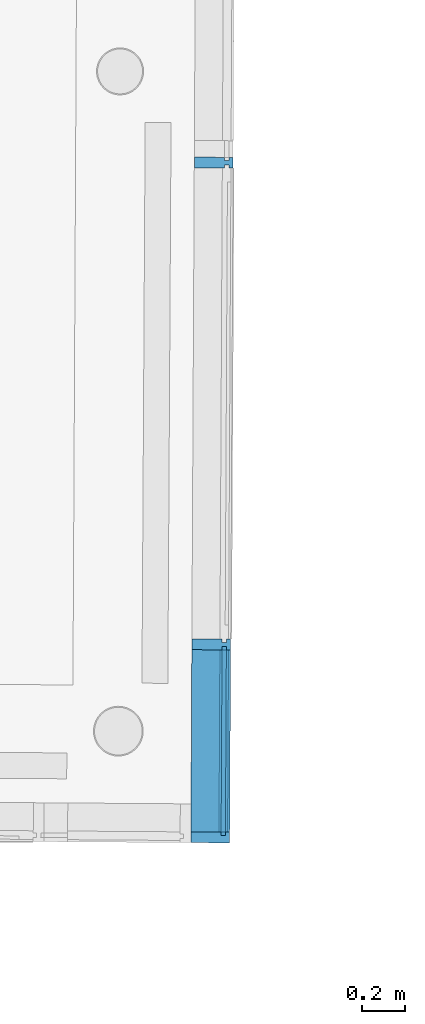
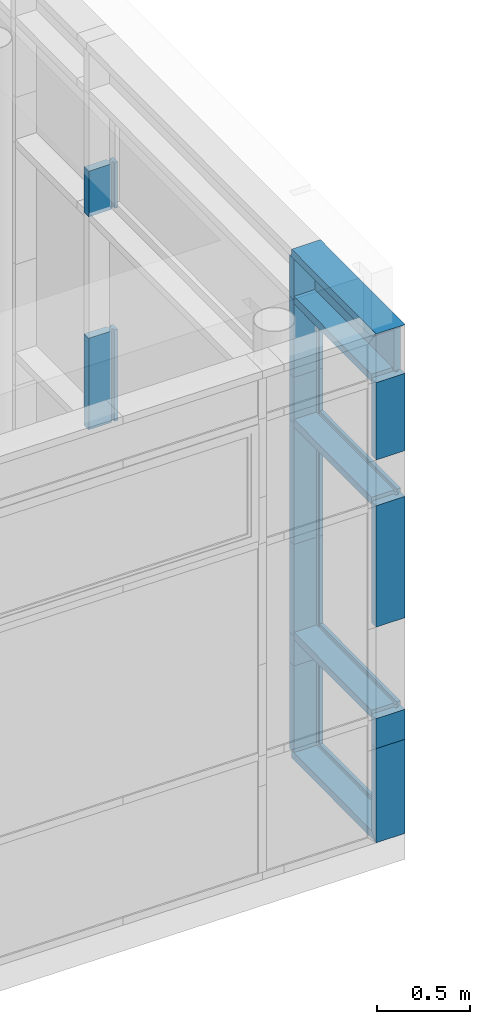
# One storey, part 178 of 196: 19 building element parts, 1 element without a shape of its own.
"""IFC2X3 building model written with IfcOpenShell, lengths in metres."""

from ifc_helpers import new_model, entity, si_unit, converted_unit, derived_unit, money_unit, direction, frame, origin_with_axes, place, context, subcontext, project, spatial, faceted_brep, material, type_object, element, aggregate, save


model = new_model("IFC2X3")

# Units and contexts
model_context = context("Model", 3, precision=1e-05, world=origin_with_axes(), true_north=direction((0.0, 1.0)))
body_context = subcontext(model_context, "Body", "Model", "MODEL_VIEW")
ifc_project = project(units=[si_unit("LENGTHUNIT", "METRE"), si_unit("AREAUNIT", "SQUARE_METRE"), si_unit("VOLUMEUNIT", "CUBIC_METRE"), converted_unit("PLANEANGLEUNIT", "DEGREE", entity("IfcPlaneAngleMeasure", 0.0174532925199), si_unit("PLANEANGLEUNIT", "RADIAN"), dimensions=[0, 0, 0, 0, 0, 0, 0]), money_unit("EUR"), converted_unit("TIMEUNIT", "Year", entity("IfcTimeMeasure", 31556926.0), si_unit("TIMEUNIT", "SECOND"), dimensions=[0, 0, 1, 0, 0, 0, 0]), si_unit("MASSUNIT", "GRAM", prefix="KILO"), si_unit("THERMODYNAMICTEMPERATUREUNIT", "DEGREE_CELSIUS"), si_unit("LUMINOUSINTENSITYUNIT", "LUMEN"), si_unit("ENERGYUNIT", "JOULE", prefix="MEGA"), derived_unit("THERMALCONDUCTANCEUNIT", [(si_unit("POWERUNIT", "WATT"), 1), (si_unit("LENGTHUNIT", "METRE"), -1), (si_unit("THERMODYNAMICTEMPERATUREUNIT", "KELVIN"), -1)]), derived_unit("SPECIFICHEATCAPACITYUNIT", [(si_unit("ENERGYUNIT", "JOULE"), 1), (si_unit("MASSUNIT", "GRAM", prefix="KILO"), -1), (si_unit("THERMODYNAMICTEMPERATUREUNIT", "KELVIN"), -1)]), derived_unit("MASSDENSITYUNIT", [(si_unit("MASSUNIT", "GRAM", prefix="KILO"), 1), (si_unit("VOLUMEUNIT", "CUBIC_METRE"), -1)])], contexts=[model_context])

# Site, building, storey
site_placement = place(None, origin_with_axes())
site = spatial("IfcSite", under=ifc_project, at=site_placement, Name="Gelände", CompositionType="ELEMENT")
building_placement = place(site_placement, origin_with_axes())
building = spatial("IfcBuilding", under=site, at=building_placement, Name="Gebäude", CompositionType="ELEMENT")
storey_placement = place(building_placement, frame((0.0, 0.0, -3.0), z_axis=(0.0, 0.0, 1.0), x_axis=(1.0, 0.0, 0.0)))
storey = spatial("IfcBuildingStorey", under=building, at=storey_placement, Name="KELLERGESCHOSS", CompositionType="ELEMENT", Elevation=-3.0)

# Proxy, building element parts
building_element_proxy_type = type_object("IfcBuildingElementProxyType", Name="Fassadentyp", PredefinedType="NOTDEFINED")
proxy_placement = place(storey_placement, frame((9.16160365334, 37.7476945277, 0.610000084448), z_axis=(0.0, 0.0, 1.0), x_axis=(1.0, 0.0, 0.0)))
proxy = element("IfcBuildingElementProxy", 1, at=proxy_placement, inside=storey, type_object=building_element_proxy_type, Name="Fassade-002")
ifc_material_1 = material(Name="45_Glas, Normalglas")
building_element_part_1_placement = place(proxy_placement, origin_with_axes())
building_element_part_1 = element("IfcBuildingElementPart", 2, at=building_element_part_1_placement, material=ifc_material_1, Name="45_Glas, Normalglas", context=body_context, shape_type="Brep", body=[
    faceted_brep([(-0.0257091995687, -1.12620736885, 3.31499994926), (-0.030140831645, -2.00043873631, 3.31499994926), (0.00985865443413, -2.00064150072, 3.31499994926), (0.0142902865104, -1.12641013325, 3.31499994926), (-0.0257091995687, -1.12620736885, 3.0394964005), (-0.030140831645, -2.00043873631, 3.0394964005), (0.00985865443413, -2.00064150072, 3.0394964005), (0.0142902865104, -1.12641013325, 3.0394964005)], [[[0, 1, 2, 3]], [[0, 4, 5, 1]], [[1, 5, 6, 2]], [[3, 2, 6, 7]], [[4, 0, 3, 7]], [[5, 4, 7, 6]]]),
])
ifc_material_2 = material(Name="53_Metall, Aluminium")
building_element_part_2_placement = place(proxy_placement, origin_with_axes())
building_element_part_2 = element("IfcBuildingElementPart", 3, at=building_element_part_2_placement, material=ifc_material_2, Name="53_Metall, Aluminium", context=body_context, shape_type="Brep", body=[
    faceted_brep([(-0.0156079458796, -1.10625832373, 2.51999991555), (-0.0155319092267, -1.09125851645, 2.51999991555), (-0.155530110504, -1.09054884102, 2.51999991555), (-0.155783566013, -1.14054819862, 2.51999991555), (-0.0157853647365, -1.14125787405, 2.51999991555), (-0.0157093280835, -1.12625806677, 2.51999991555), (0.00429041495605, -1.12635944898, 2.51999991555), (0.00421437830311, -1.14135925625, 2.51999991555), (0.0242141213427, -1.14146063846, 2.51999991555), (0.0244675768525, -1.09146128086, 2.51999991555), (0.00446783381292, -1.09135989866, 2.51999991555), (0.00439179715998, -1.10635970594, 2.51999991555), (-0.0156079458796, -1.10625832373, 2.21916309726), (-0.0155319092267, -1.09125851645, 2.21916309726), (-0.155530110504, -1.09054884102, 2.21916309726), (-0.155783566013, -1.14054819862, 2.21916309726), (-0.0157853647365, -1.14125787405, 2.21916309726), (-0.0157093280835, -1.12625806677, 2.21916309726), (0.00429041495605, -1.12635944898, 2.21916309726), (0.00421437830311, -1.14135925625, 2.21916309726), (0.0242141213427, -1.14146063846, 2.21916309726), (0.0244675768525, -1.09146128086, 2.21916309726), (0.00446783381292, -1.09135989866, 2.21916309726), (0.00439179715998, -1.10635970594, 2.21916309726)], [[[0, 1, 2, 3, 4, 5, 6, 7, 8, 9, 10, 11]], [[1, 0, 12, 13]], [[1, 13, 14, 2]], [[3, 2, 14, 15]], [[4, 3, 15, 16]], [[4, 16, 17, 5]], [[5, 17, 18, 6]], [[7, 6, 18, 19]], [[19, 20, 8, 7]], [[9, 8, 20, 21]], [[22, 10, 9, 21]], [[11, 10, 22, 23]], [[0, 11, 23, 12]], [[23, 22, 21, 20, 19, 18, 17, 16, 15, 14, 13, 12]]]),
])
building_element_part_3_placement = place(proxy_placement, origin_with_axes())
building_element_part_3 = element("IfcBuildingElementPart", 4, at=building_element_part_3_placement, material=ifc_material_2, Name="53_Metall, Aluminium", context=body_context, shape_type="Brep", body=[
    faceted_brep([(-0.00429041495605, 1.12635944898, 2.51999991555), (-0.00421437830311, 1.14135925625, 2.51999991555), (-0.14421257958, 1.14206893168, 2.51999991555), (-0.14446603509, 1.09206957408, 2.51999991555), (-0.00446783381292, 1.09135989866, 2.51999991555), (-0.00439179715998, 1.10635970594, 2.51999991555), (0.0156079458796, 1.10625832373, 2.51999991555), (0.0155319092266, 1.09125851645, 2.51999991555), (0.0355316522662, 1.09115713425, 2.51999991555), (0.035785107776, 1.14115649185, 2.51999991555), (0.0157853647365, 1.14125787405, 2.51999991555), (0.0157093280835, 1.12625806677, 2.51999991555), (-0.00429041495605, 1.12635944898, 2.21916309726), (-0.00421437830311, 1.14135925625, 2.21916309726), (-0.14421257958, 1.14206893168, 2.21916309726), (-0.14446603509, 1.09206957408, 2.21916309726), (-0.00446783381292, 1.09135989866, 2.21916309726), (-0.00439179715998, 1.10635970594, 2.21916309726), (0.0156079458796, 1.10625832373, 2.21916309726), (0.0155319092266, 1.09125851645, 2.21916309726), (0.0355316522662, 1.09115713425, 2.21916309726), (0.035785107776, 1.14115649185, 2.21916309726), (0.0157853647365, 1.14125787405, 2.21916309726), (0.0157093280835, 1.12625806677, 2.21916309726)], [[[0, 1, 2, 3, 4, 5, 6, 7, 8, 9, 10, 11]], [[1, 0, 12, 13]], [[1, 13, 14, 2]], [[3, 2, 14, 15]], [[4, 3, 15, 16]], [[4, 16, 17, 5]], [[5, 17, 18, 6]], [[7, 6, 18, 19]], [[19, 20, 8, 7]], [[9, 8, 20, 21]], [[22, 10, 9, 21]], [[11, 10, 22, 23]], [[0, 11, 23, 12]], [[23, 22, 21, 20, 19, 18, 17, 16, 15, 14, 13, 12]]]),
])
building_element_part_4_placement = place(proxy_placement, origin_with_axes())
building_element_part_4 = element("IfcBuildingElementPart", 5, at=building_element_part_4_placement, material=ifc_material_2, Name="53_Metall, Aluminium", context=body_context, shape_type="Brep", body=[
    faceted_brep([(-0.00429041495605, 1.12635944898, 1.41999991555), (-0.00421437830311, 1.14135925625, 1.41999991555), (-0.14421257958, 1.14206893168, 1.41999991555), (-0.14446603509, 1.09206957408, 1.41999991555), (-0.00446783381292, 1.09135989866, 1.41999991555), (-0.00439179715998, 1.10635970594, 1.41999991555), (0.0156079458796, 1.10625832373, 1.41999991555), (0.0155319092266, 1.09125851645, 1.41999991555), (0.0355316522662, 1.09115713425, 1.41999991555), (0.035785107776, 1.14115649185, 1.41999991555), (0.0157853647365, 1.14125787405, 1.41999991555), (0.0157093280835, 1.12625806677, 1.41999991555), (-0.00429041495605, 1.12635944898, 0.817169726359), (-0.00421437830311, 1.14135925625, 0.817169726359), (-0.14421257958, 1.14206893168, 0.817169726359), (-0.14446603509, 1.09206957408, 0.817169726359), (-0.00446783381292, 1.09135989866, 0.817169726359), (-0.00439179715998, 1.10635970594, 0.817169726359), (0.0156079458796, 1.10625832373, 0.817169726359), (0.0155319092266, 1.09125851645, 0.817169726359), (0.0355316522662, 1.09115713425, 0.817169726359), (0.035785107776, 1.14115649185, 0.817169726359), (0.0157853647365, 1.14125787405, 0.817169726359), (0.0157093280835, 1.12625806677, 0.817169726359)], [[[0, 1, 2, 3, 4, 5, 6, 7, 8, 9, 10, 11]], [[1, 0, 12, 13]], [[1, 13, 14, 2]], [[3, 2, 14, 15]], [[4, 3, 15, 16]], [[4, 16, 17, 5]], [[5, 17, 18, 6]], [[7, 6, 18, 19]], [[19, 20, 8, 7]], [[9, 8, 20, 21]], [[22, 10, 9, 21]], [[11, 10, 22, 23]], [[0, 11, 23, 12]], [[23, 22, 21, 20, 19, 18, 17, 16, 15, 14, 13, 12]]]),
])
building_element_part_5_placement = place(proxy_placement, origin_with_axes())
building_element_part_5 = element("IfcBuildingElementPart", 6, at=building_element_part_5_placement, material=ifc_material_2, Name="53_Metall, Aluminium", context=body_context, shape_type="Brep", body=[
    faceted_brep([(-0.0156079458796, -1.10625832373, 1.41999991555), (-0.0155319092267, -1.09125851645, 1.41999991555), (-0.155530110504, -1.09054884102, 1.41999991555), (-0.155783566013, -1.14054819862, 1.41999991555), (-0.0157853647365, -1.14125787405, 1.41999991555), (-0.0157093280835, -1.12625806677, 1.41999991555), (0.00429041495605, -1.12635944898, 1.41999991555), (0.00421437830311, -1.14135925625, 1.41999991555), (0.0242141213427, -1.14146063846, 1.41999991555), (0.0244675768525, -1.09146128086, 1.41999991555), (0.00446783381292, -1.09135989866, 1.41999991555), (0.00439179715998, -1.10635970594, 1.41999991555), (-0.0156079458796, -1.10625832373, 0.817169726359), (-0.0155319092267, -1.09125851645, 0.817169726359), (-0.155530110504, -1.09054884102, 0.817169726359), (-0.155783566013, -1.14054819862, 0.817169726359), (-0.0157853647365, -1.14125787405, 0.817169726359), (-0.0157093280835, -1.12625806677, 0.817169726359), (0.00429041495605, -1.12635944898, 0.817169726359), (0.00421437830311, -1.14135925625, 0.817169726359), (0.0242141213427, -1.14146063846, 0.817169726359), (0.0244675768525, -1.09146128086, 0.817169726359), (0.00446783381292, -1.09135989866, 0.817169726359), (0.00439179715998, -1.10635970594, 0.817169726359)], [[[0, 1, 2, 3, 4, 5, 6, 7, 8, 9, 10, 11]], [[1, 0, 12, 13]], [[1, 13, 14, 2]], [[3, 2, 14, 15]], [[4, 3, 15, 16]], [[4, 16, 17, 5]], [[5, 17, 18, 6]], [[7, 6, 18, 19]], [[19, 20, 8, 7]], [[9, 8, 20, 21]], [[22, 10, 9, 21]], [[11, 10, 22, 23]], [[0, 11, 23, 12]], [[23, 22, 21, 20, 19, 18, 17, 16, 15, 14, 13, 12]]]),
])
building_element_part_6_placement = place(proxy_placement, origin_with_axes())
building_element_part_6 = element("IfcBuildingElementPart", 7, at=building_element_part_6_placement, material=ifc_material_2, Name="53_Metall, Aluminium", context=body_context, shape_type="Brep", body=[
    faceted_brep([(-0.0156079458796, -1.10625832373, 0.620000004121), (-0.0155319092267, -1.09125851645, 0.620000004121), (-0.155530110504, -1.09054884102, 0.620000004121), (-0.155783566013, -1.14054819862, 0.620000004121), (-0.0157853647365, -1.14125787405, 0.620000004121), (-0.0157093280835, -1.12625806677, 0.620000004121), (0.00429041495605, -1.12635944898, 0.620000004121), (0.00421437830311, -1.14135925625, 0.620000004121), (0.0242141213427, -1.14146063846, 0.620000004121), (0.0244675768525, -1.09146128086, 0.620000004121), (0.00446783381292, -1.09135989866, 0.620000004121), (0.00439179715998, -1.10635970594, 0.620000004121), (-0.0156079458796, -1.10625832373, 0.0499999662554), (-0.0155319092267, -1.09125851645, 0.0499999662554), (-0.155530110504, -1.09054884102, 0.0499999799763), (-0.155783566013, -1.14054819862, 0.0499999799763), (-0.0157853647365, -1.14125787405, 0.0499999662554), (-0.0157093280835, -1.12625806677, 0.0499999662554), (0.00429041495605, -1.12635944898, 0.0499999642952), (0.00421437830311, -1.14135925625, 0.0499999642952), (0.0242141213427, -1.14146063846, 0.0499999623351), (0.0244675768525, -1.09146128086, 0.0499999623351), (0.00446783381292, -1.09135989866, 0.0499999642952), (0.00439179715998, -1.10635970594, 0.0499999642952)], [[[0, 1, 2, 3, 4, 5, 6, 7, 8, 9, 10, 11]], [[1, 0, 12, 13]], [[1, 13, 14, 2]], [[2, 14, 15, 3]], [[4, 3, 15, 16]], [[4, 16, 17, 5]], [[5, 17, 18, 6]], [[7, 6, 18, 19]], [[19, 20, 8, 7]], [[8, 20, 21, 9]], [[22, 10, 9, 21]], [[11, 10, 22, 23]], [[0, 11, 23, 12]], [[23, 22, 21, 20, 19, 18, 17, 16, 15, 14, 13, 12]]]),
])
building_element_part_7_placement = place(proxy_placement, origin_with_axes())
building_element_part_7 = element("IfcBuildingElementPart", 8, at=building_element_part_7_placement, material=ifc_material_2, Name="53_Metall, Aluminium", context=body_context, shape_type="Brep", body=[
    faceted_brep([(-0.0156079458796, -1.10625832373, 3.29999994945), (-0.0155319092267, -1.09125851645, 3.29999994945), (-0.155530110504, -1.09054884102, 3.29999994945), (-0.155783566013, -1.14054819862, 3.29999994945), (-0.0157853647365, -1.14125787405, 3.29999994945), (-0.0157093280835, -1.12625806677, 3.29999994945), (0.00429041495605, -1.12635944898, 3.29999994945), (0.00421437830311, -1.14135925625, 3.29999994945), (0.0242141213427, -1.14146063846, 3.29999994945), (0.0244675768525, -1.09146128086, 3.29999994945), (0.00446783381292, -1.09135989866, 3.29999994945), (0.00439179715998, -1.10635970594, 3.29999994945), (-0.0156079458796, -1.10625832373, 3.02949640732), (-0.0155319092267, -1.09125851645, 3.02949640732), (-0.155530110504, -1.09054884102, 3.02949640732), (-0.155783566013, -1.14054819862, 3.02949640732), (-0.0157853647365, -1.14125787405, 3.02949640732), (-0.0157093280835, -1.12625806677, 3.02949640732), (0.00429041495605, -1.12635944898, 3.02949640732), (0.00421437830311, -1.14135925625, 3.02949640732), (0.0242141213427, -1.14146063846, 3.02949640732), (0.0244675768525, -1.09146128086, 3.02949640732), (0.00446783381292, -1.09135989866, 3.02949640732), (0.00439179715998, -1.10635970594, 3.02949640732)], [[[0, 1, 2, 3, 4, 5, 6, 7, 8, 9, 10, 11]], [[1, 0, 12, 13]], [[1, 13, 14, 2]], [[3, 2, 14, 15]], [[4, 3, 15, 16]], [[4, 16, 17, 5]], [[5, 17, 18, 6]], [[7, 6, 18, 19]], [[19, 20, 8, 7]], [[9, 8, 20, 21]], [[22, 10, 9, 21]], [[11, 10, 22, 23]], [[0, 11, 23, 12]], [[23, 22, 21, 20, 19, 18, 17, 16, 15, 14, 13, 12]]]),
])
building_element_part_8_placement = place(proxy_placement, origin_with_axes())
building_element_part_8 = element("IfcBuildingElementPart", 9, at=building_element_part_8_placement, material=ifc_material_2, Name="53_Metall, Aluminium", context=body_context, shape_type="Brep", body=[
    faceted_brep([(-0.020140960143, -2.00048943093, 0.619999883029), (-0.0200649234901, -1.98548962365, 0.619999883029), (-0.160063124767, -1.98477994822, 0.619999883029), (-0.160316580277, -2.03477930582, 0.619999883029), (0.0196811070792, -2.03569174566, 0.619999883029), (0.019934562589, -1.98569238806, 0.619999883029), (-6.51804505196e-05, -1.98559100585, 0.619999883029), (-0.000141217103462, -2.00059081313, 0.619999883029), (-0.020140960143, -2.00048943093, 0.0349999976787), (-0.0200649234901, -1.98548962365, 0.0499999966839), (-0.160063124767, -1.98477994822, 0.0499999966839), (-0.160316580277, -2.03477930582, 0.0), (0.0196811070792, -2.03569174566, 0.0), (0.019934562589, -1.98569238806, 0.0499999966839), (-6.51804505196e-05, -1.98559100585, 0.0499999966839), (-0.000141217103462, -2.00059081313, 0.0349999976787)], [[[0, 1, 2, 3, 4, 5, 6, 7]], [[0, 8, 9, 1]], [[9, 10, 2, 1]], [[2, 10, 11, 3]], [[3, 11, 12, 4]], [[4, 12, 13, 5]], [[6, 5, 13, 14]], [[14, 15, 7, 6]], [[7, 15, 8, 0]], [[8, 15, 14, 13, 12, 11, 10, 9]]]),
])
building_element_part_9_placement = place(proxy_placement, origin_with_axes())
building_element_part_9 = element("IfcBuildingElementPart", 10, at=building_element_part_9_placement, material=ifc_material_2, Name="53_Metall, Aluminium", context=body_context, shape_type="Brep", body=[
    faceted_brep([(-0.0156586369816, -1.11625819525, 0.035), (0.004341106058, -1.11635957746, 0.035), (0.004341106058, -1.11635957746, 0.05), (0.0243408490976, -1.11646095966, 0.05), (0.0243408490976, -1.11646095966, 0.0), (-0.155656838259, -1.11554851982, 0.0), (-0.155656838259, -1.11554851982, 0.05), (-0.0156586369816, -1.11625819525, 0.05), (-0.0201409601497, -2.00048943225, 0.035), (-0.000141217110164, -2.00059081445, 0.035), (-6.51804600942e-05, -1.98559100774, 0.05), (0.0199345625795, -1.98569238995, 0.05), (0.0196811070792, -2.03569174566, 0.0), (-0.160316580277, -2.03477930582, 0.0), (-0.160063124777, -1.98477995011, 0.05), (-0.0200649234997, -1.98548962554, 0.05)], [[[0, 1, 2, 3, 4, 5, 6, 7]], [[1, 0, 8, 9]], [[10, 2, 1, 9]], [[2, 10, 11, 3]], [[4, 3, 11, 12]], [[5, 4, 12, 13]], [[6, 5, 13, 14]], [[15, 7, 6, 14]], [[0, 7, 15, 8]], [[8, 15, 14, 13, 12, 11, 10, 9]]]),
])
building_element_part_10_placement = place(proxy_placement, origin_with_axes())
building_element_part_10 = element("IfcBuildingElementPart", 11, at=building_element_part_10_placement, material=ifc_material_2, Name="53_Metall, Aluminium", context=body_context, shape_type="Brep", body=[
    faceted_brep([(-0.0156586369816, -1.11625819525, 3.31499994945), (-0.0156586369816, -1.11625819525, 3.29999994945), (-0.155656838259, -1.11554851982, 3.29999994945), (-0.155656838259, -1.11554851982, 3.34999994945), (0.0243408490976, -1.11646095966, 3.34999994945), (0.0243408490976, -1.11646095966, 3.29999994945), (0.004341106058, -1.11635957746, 3.29999994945), (0.004341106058, -1.11635957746, 3.31499994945), (-0.020140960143, -2.00048943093, 3.31499994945), (-0.0200649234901, -1.98548962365, 3.29999994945), (-0.160063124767, -1.98477994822, 3.29999994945), (-0.160316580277, -2.03477930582, 3.34999994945), (0.0196811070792, -2.03569174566, 3.34999994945), (0.019934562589, -1.98569238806, 3.29999994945), (-6.51804505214e-05, -1.98559100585, 3.29999994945), (-0.000141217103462, -2.00059081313, 3.31499994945)], [[[0, 1, 2, 3, 4, 5, 6, 7]], [[0, 8, 9, 1]], [[9, 10, 2, 1]], [[2, 10, 11, 3]], [[3, 11, 12, 4]], [[4, 12, 13, 5]], [[6, 5, 13, 14]], [[14, 15, 7, 6]], [[7, 15, 8, 0]], [[8, 15, 14, 13, 12, 11, 10, 9]]]),
])
building_element_part_11_placement = place(proxy_placement, origin_with_axes())
building_element_part_11 = element("IfcBuildingElementPart", 12, at=building_element_part_11_placement, material=ifc_material_2, Name="53_Metall, Aluminium", context=body_context, shape_type="Brep", body=[
    faceted_brep([(-0.0157853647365, -1.14125787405, 3.01949640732), (-0.0157853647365, -1.14125787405, 3.00449640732), (-0.155783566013, -1.14054819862, 3.00449640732), (-0.155783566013, -1.14054819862, 3.05449640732), (-0.0157853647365, -1.14125787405, 3.05449640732), (-0.0157853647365, -1.14125787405, 3.03949640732), (0.0042143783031, -1.14135925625, 3.03949640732), (0.0042143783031, -1.14135925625, 3.05449640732), (0.0242141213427, -1.14146063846, 3.05449640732), (0.0242141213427, -1.14146063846, 3.00449640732), (0.0042143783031, -1.14135925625, 3.00449640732), (0.0042143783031, -1.14135925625, 3.01949640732), (-0.0200649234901, -1.98548962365, 3.01949640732), (-0.0200649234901, -1.98548962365, 3.00449640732), (-0.160063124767, -1.98477994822, 3.00449640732), (-0.160063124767, -1.98477994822, 3.05449640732), (-0.0200649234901, -1.98548962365, 3.05449640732), (-0.0200649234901, -1.98548962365, 3.03949640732), (-6.51804505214e-05, -1.98559100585, 3.03949640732), (-6.51804505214e-05, -1.98559100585, 3.05449640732), (0.019934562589, -1.98569238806, 3.05449640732), (0.019934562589, -1.98569238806, 3.00449640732), (-6.51804505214e-05, -1.98559100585, 3.00449640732), (-6.51804505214e-05, -1.98559100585, 3.01949640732)], [[[0, 1, 2, 3, 4, 5, 6, 7, 8, 9, 10, 11]], [[1, 0, 12, 13]], [[1, 13, 14, 2]], [[2, 14, 15, 3]], [[4, 3, 15, 16]], [[4, 16, 17, 5]], [[5, 17, 18, 6]], [[7, 6, 18, 19]], [[19, 20, 8, 7]], [[8, 20, 21, 9]], [[22, 10, 9, 21]], [[11, 10, 22, 23]], [[0, 11, 23, 12]], [[23, 22, 21, 20, 19, 18, 17, 16, 15, 14, 13, 12]]]),
])
building_element_part_12_placement = place(proxy_placement, origin_with_axes())
building_element_part_12 = element("IfcBuildingElementPart", 13, at=building_element_part_12_placement, material=ifc_material_2, Name="53_Metall, Aluminium", context=body_context, shape_type="Brep", body=[
    faceted_brep([(-0.0156079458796, -1.10625832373, 3.02949640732), (-0.0155319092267, -1.09125851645, 3.02949640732), (-0.155530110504, -1.09054884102, 3.02949640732), (-0.155783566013, -1.14054819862, 3.02949640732), (-0.0157853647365, -1.14125787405, 3.02949640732), (-0.0157093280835, -1.12625806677, 3.02949640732), (0.00429041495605, -1.12635944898, 3.02949640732), (0.00421437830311, -1.14135925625, 3.02949640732), (0.0242141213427, -1.14146063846, 3.02949640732), (0.0244675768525, -1.09146128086, 3.02949640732), (0.00446783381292, -1.09135989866, 3.02949640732), (0.00439179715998, -1.10635970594, 3.02949640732), (-0.0156079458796, -1.10625832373, 2.51999991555), (-0.0155319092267, -1.09125851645, 2.51999991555), (-0.155530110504, -1.09054884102, 2.51999991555), (-0.155783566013, -1.14054819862, 2.51999991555), (-0.0157853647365, -1.14125787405, 2.51999991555), (-0.0157093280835, -1.12625806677, 2.51999991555), (0.00429041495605, -1.12635944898, 2.51999991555), (0.00421437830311, -1.14135925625, 2.51999991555), (0.0242141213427, -1.14146063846, 2.51999991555), (0.0244675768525, -1.09146128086, 2.51999991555), (0.00446783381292, -1.09135989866, 2.51999991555), (0.00439179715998, -1.10635970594, 2.51999991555)], [[[0, 1, 2, 3, 4, 5, 6, 7, 8, 9, 10, 11]], [[1, 0, 12, 13]], [[1, 13, 14, 2]], [[3, 2, 14, 15]], [[4, 3, 15, 16]], [[4, 16, 17, 5]], [[5, 17, 18, 6]], [[7, 6, 18, 19]], [[19, 20, 8, 7]], [[9, 8, 20, 21]], [[22, 10, 9, 21]], [[11, 10, 22, 23]], [[0, 11, 23, 12]], [[23, 22, 21, 20, 19, 18, 17, 16, 15, 14, 13, 12]]]),
])
building_element_part_13_placement = place(proxy_placement, origin_with_axes())
building_element_part_13 = element("IfcBuildingElementPart", 14, at=building_element_part_13_placement, material=ifc_material_2, Name="53_Metall, Aluminium", context=body_context, shape_type="Brep", body=[
    faceted_brep([(-0.020140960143, -2.00048943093, 3.02949640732), (-0.0200649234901, -1.98548962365, 3.02949640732), (-0.160063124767, -1.98477994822, 3.02949640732), (-0.160316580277, -2.03477930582, 3.02949640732), (0.0196811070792, -2.03569174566, 3.02949640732), (0.019934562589, -1.98569238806, 3.02949640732), (-6.51804505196e-05, -1.98559100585, 3.02949640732), (-0.000141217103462, -2.00059081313, 3.02949640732), (-0.020140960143, -2.00048943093, 2.51999991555), (-0.0200649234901, -1.98548962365, 2.51999991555), (-0.160063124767, -1.98477994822, 2.51999991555), (-0.160316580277, -2.03477930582, 2.51999991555), (0.0196811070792, -2.03569174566, 2.51999991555), (0.019934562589, -1.98569238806, 2.51999991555), (-6.51804505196e-05, -1.98559100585, 2.51999991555), (-0.000141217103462, -2.00059081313, 2.51999991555)], [[[0, 1, 2, 3, 4, 5, 6, 7]], [[0, 8, 9, 1]], [[9, 10, 2, 1]], [[10, 11, 3, 2]], [[11, 12, 4, 3]], [[12, 13, 5, 4]], [[6, 5, 13, 14]], [[14, 15, 7, 6]], [[7, 15, 8, 0]], [[8, 15, 14, 13, 12, 11, 10, 9]]]),
])
building_element_part_14_placement = place(proxy_placement, origin_with_axes())
building_element_part_14 = element("IfcBuildingElementPart", 15, at=building_element_part_14_placement, material=ifc_material_2, Name="53_Metall, Aluminium", context=body_context, shape_type="Brep", body=[
    faceted_brep([(-0.0157853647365, -1.14125787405, 2.20916309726), (-0.0157853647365, -1.14125787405, 2.19416309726), (-0.155783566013, -1.14054819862, 2.19416309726), (-0.155783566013, -1.14054819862, 2.24416309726), (-0.0157853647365, -1.14125787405, 2.24416309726), (-0.0157853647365, -1.14125787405, 2.22916309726), (0.0042143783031, -1.14135925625, 2.22916309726), (0.0042143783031, -1.14135925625, 2.24416309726), (0.0242141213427, -1.14146063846, 2.24416309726), (0.0242141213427, -1.14146063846, 2.19416309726), (0.0042143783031, -1.14135925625, 2.19416309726), (0.0042143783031, -1.14135925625, 2.20916309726), (-0.0200649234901, -1.98548962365, 2.20916309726), (-0.0200649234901, -1.98548962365, 2.19416309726), (-0.160063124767, -1.98477994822, 2.19416309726), (-0.160063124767, -1.98477994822, 2.24416309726), (-0.0200649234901, -1.98548962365, 2.24416309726), (-0.0200649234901, -1.98548962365, 2.22916309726), (-6.51804505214e-05, -1.98559100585, 2.22916309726), (-6.51804505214e-05, -1.98559100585, 2.24416309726), (0.019934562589, -1.98569238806, 2.24416309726), (0.019934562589, -1.98569238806, 2.19416309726), (-6.51804505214e-05, -1.98559100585, 2.19416309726), (-6.51804505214e-05, -1.98559100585, 2.20916309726)], [[[0, 1, 2, 3, 4, 5, 6, 7, 8, 9, 10, 11]], [[1, 0, 12, 13]], [[1, 13, 14, 2]], [[2, 14, 15, 3]], [[4, 3, 15, 16]], [[4, 16, 17, 5]], [[5, 17, 18, 6]], [[7, 6, 18, 19]], [[19, 20, 8, 7]], [[8, 20, 21, 9]], [[22, 10, 9, 21]], [[11, 10, 22, 23]], [[0, 11, 23, 12]], [[23, 22, 21, 20, 19, 18, 17, 16, 15, 14, 13, 12]]]),
])
building_element_part_15_placement = place(proxy_placement, origin_with_axes())
building_element_part_15 = element("IfcBuildingElementPart", 16, at=building_element_part_15_placement, material=ifc_material_2, Name="53_Metall, Aluminium", context=body_context, shape_type="Brep", body=[
    faceted_brep([(-0.0156079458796, -1.10625832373, 2.21916309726), (-0.0155319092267, -1.09125851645, 2.21916309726), (-0.155530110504, -1.09054884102, 2.21916309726), (-0.155783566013, -1.14054819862, 2.21916309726), (-0.0157853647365, -1.14125787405, 2.21916309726), (-0.0157093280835, -1.12625806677, 2.21916309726), (0.00429041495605, -1.12635944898, 2.21916309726), (0.00421437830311, -1.14135925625, 2.21916309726), (0.0242141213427, -1.14146063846, 2.21916309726), (0.0244675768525, -1.09146128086, 2.21916309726), (0.00446783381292, -1.09135989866, 2.21916309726), (0.00439179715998, -1.10635970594, 2.21916309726), (-0.0156079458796, -1.10625832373, 1.41999991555), (-0.0155319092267, -1.09125851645, 1.41999991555), (-0.155530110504, -1.09054884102, 1.41999991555), (-0.155783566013, -1.14054819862, 1.41999991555), (-0.0157853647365, -1.14125787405, 1.41999991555), (-0.0157093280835, -1.12625806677, 1.41999991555), (0.00429041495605, -1.12635944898, 1.41999991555), (0.00421437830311, -1.14135925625, 1.41999991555), (0.0242141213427, -1.14146063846, 1.41999991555), (0.0244675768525, -1.09146128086, 1.41999991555), (0.00446783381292, -1.09135989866, 1.41999991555), (0.00439179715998, -1.10635970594, 1.41999991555)], [[[0, 1, 2, 3, 4, 5, 6, 7, 8, 9, 10, 11]], [[1, 0, 12, 13]], [[1, 13, 14, 2]], [[3, 2, 14, 15]], [[4, 3, 15, 16]], [[4, 16, 17, 5]], [[5, 17, 18, 6]], [[7, 6, 18, 19]], [[19, 20, 8, 7]], [[9, 8, 20, 21]], [[22, 10, 9, 21]], [[11, 10, 22, 23]], [[0, 11, 23, 12]], [[23, 22, 21, 20, 19, 18, 17, 16, 15, 14, 13, 12]]]),
])
building_element_part_16_placement = place(proxy_placement, origin_with_axes())
building_element_part_16 = element("IfcBuildingElementPart", 17, at=building_element_part_16_placement, material=ifc_material_2, Name="53_Metall, Aluminium", context=body_context, shape_type="Brep", body=[
    faceted_brep([(-0.020140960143, -2.00048943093, 2.21916309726), (-0.0200649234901, -1.98548962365, 2.21916309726), (-0.160063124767, -1.98477994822, 2.21916309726), (-0.160316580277, -2.03477930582, 2.21916309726), (0.0196811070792, -2.03569174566, 2.21916309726), (0.019934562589, -1.98569238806, 2.21916309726), (-6.51804505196e-05, -1.98559100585, 2.21916309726), (-0.000141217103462, -2.00059081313, 2.21916309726), (-0.020140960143, -2.00048943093, 1.41999991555), (-0.0200649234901, -1.98548962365, 1.41999991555), (-0.160063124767, -1.98477994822, 1.41999991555), (-0.160316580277, -2.03477930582, 1.41999991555), (0.0196811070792, -2.03569174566, 1.41999991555), (0.019934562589, -1.98569238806, 1.41999991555), (-6.51804505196e-05, -1.98559100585, 1.41999991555), (-0.000141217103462, -2.00059081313, 1.41999991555)], [[[0, 1, 2, 3, 4, 5, 6, 7]], [[0, 8, 9, 1]], [[9, 10, 2, 1]], [[10, 11, 3, 2]], [[11, 12, 4, 3]], [[12, 13, 5, 4]], [[6, 5, 13, 14]], [[14, 15, 7, 6]], [[7, 15, 8, 0]], [[8, 15, 14, 13, 12, 11, 10, 9]]]),
])
building_element_part_17_placement = place(proxy_placement, origin_with_axes())
building_element_part_17 = element("IfcBuildingElementPart", 18, at=building_element_part_17_placement, material=ifc_material_2, Name="53_Metall, Aluminium", context=body_context, shape_type="Brep", body=[
    faceted_brep([(-0.0157853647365, -1.14125787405, 0.807169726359), (-0.0157853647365, -1.14125787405, 0.792169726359), (-0.155783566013, -1.14054819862, 0.792169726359), (-0.155783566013, -1.14054819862, 0.842169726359), (-0.0157853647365, -1.14125787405, 0.842169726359), (-0.0157853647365, -1.14125787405, 0.827169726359), (0.0042143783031, -1.14135925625, 0.827169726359), (0.0042143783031, -1.14135925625, 0.842169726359), (0.0242141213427, -1.14146063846, 0.842169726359), (0.0242141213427, -1.14146063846, 0.792169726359), (0.0042143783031, -1.14135925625, 0.792169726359), (0.0042143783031, -1.14135925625, 0.807169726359), (-0.0200649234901, -1.98548962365, 0.807169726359), (-0.0200649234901, -1.98548962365, 0.792169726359), (-0.160063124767, -1.98477994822, 0.792169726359), (-0.160063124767, -1.98477994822, 0.842169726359), (-0.0200649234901, -1.98548962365, 0.842169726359), (-0.0200649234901, -1.98548962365, 0.827169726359), (-6.51804505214e-05, -1.98559100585, 0.827169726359), (-6.51804505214e-05, -1.98559100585, 0.842169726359), (0.019934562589, -1.98569238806, 0.842169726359), (0.019934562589, -1.98569238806, 0.792169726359), (-6.51804505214e-05, -1.98559100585, 0.792169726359), (-6.51804505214e-05, -1.98559100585, 0.807169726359)], [[[0, 1, 2, 3, 4, 5, 6, 7, 8, 9, 10, 11]], [[1, 0, 12, 13]], [[1, 13, 14, 2]], [[2, 14, 15, 3]], [[4, 3, 15, 16]], [[4, 16, 17, 5]], [[5, 17, 18, 6]], [[7, 6, 18, 19]], [[19, 20, 8, 7]], [[8, 20, 21, 9]], [[22, 10, 9, 21]], [[11, 10, 22, 23]], [[0, 11, 23, 12]], [[23, 22, 21, 20, 19, 18, 17, 16, 15, 14, 13, 12]]]),
])
building_element_part_18_placement = place(proxy_placement, origin_with_axes())
building_element_part_18 = element("IfcBuildingElementPart", 19, at=building_element_part_18_placement, material=ifc_material_2, Name="53_Metall, Aluminium", context=body_context, shape_type="Brep", body=[
    faceted_brep([(-0.0156079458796, -1.10625832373, 0.817169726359), (-0.0155319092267, -1.09125851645, 0.817169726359), (-0.155530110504, -1.09054884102, 0.817169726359), (-0.155783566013, -1.14054819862, 0.817169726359), (-0.0157853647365, -1.14125787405, 0.817169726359), (-0.0157093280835, -1.12625806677, 0.817169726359), (0.00429041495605, -1.12635944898, 0.817169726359), (0.00421437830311, -1.14135925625, 0.817169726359), (0.0242141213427, -1.14146063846, 0.817169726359), (0.0244675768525, -1.09146128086, 0.817169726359), (0.00446783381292, -1.09135989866, 0.817169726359), (0.00439179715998, -1.10635970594, 0.817169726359), (-0.0156079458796, -1.10625832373, 0.619999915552), (-0.0155319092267, -1.09125851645, 0.619999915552), (-0.155530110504, -1.09054884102, 0.619999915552), (-0.155783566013, -1.14054819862, 0.619999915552), (-0.0157853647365, -1.14125787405, 0.619999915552), (-0.0157093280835, -1.12625806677, 0.619999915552), (0.00429041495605, -1.12635944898, 0.619999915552), (0.00421437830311, -1.14135925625, 0.619999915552), (0.0242141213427, -1.14146063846, 0.619999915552), (0.0244675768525, -1.09146128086, 0.619999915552), (0.00446783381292, -1.09135989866, 0.619999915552), (0.00439179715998, -1.10635970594, 0.619999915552)], [[[0, 1, 2, 3, 4, 5, 6, 7, 8, 9, 10, 11]], [[1, 0, 12, 13]], [[1, 13, 14, 2]], [[3, 2, 14, 15]], [[4, 3, 15, 16]], [[4, 16, 17, 5]], [[5, 17, 18, 6]], [[7, 6, 18, 19]], [[19, 20, 8, 7]], [[9, 8, 20, 21]], [[22, 10, 9, 21]], [[11, 10, 22, 23]], [[0, 11, 23, 12]], [[23, 22, 21, 20, 19, 18, 17, 16, 15, 14, 13, 12]]]),
])
building_element_part_19_placement = place(proxy_placement, origin_with_axes())
building_element_part_19 = element("IfcBuildingElementPart", 20, at=building_element_part_19_placement, material=ifc_material_2, Name="53_Metall, Aluminium", context=body_context, shape_type="Brep", body=[
    faceted_brep([(-0.020140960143, -2.00048943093, 0.817169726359), (-0.0200649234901, -1.98548962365, 0.817169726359), (-0.160063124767, -1.98477994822, 0.817169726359), (-0.160316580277, -2.03477930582, 0.817169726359), (0.0196811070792, -2.03569174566, 0.817169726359), (0.019934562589, -1.98569238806, 0.817169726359), (-6.51804505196e-05, -1.98559100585, 0.817169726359), (-0.000141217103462, -2.00059081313, 0.817169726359), (-0.020140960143, -2.00048943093, 0.619999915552), (-0.0200649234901, -1.98548962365, 0.619999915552), (-0.160063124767, -1.98477994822, 0.619999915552), (-0.160316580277, -2.03477930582, 0.619999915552), (0.0196811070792, -2.03569174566, 0.619999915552), (0.019934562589, -1.98569238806, 0.619999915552), (-6.51804505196e-05, -1.98559100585, 0.619999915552), (-0.000141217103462, -2.00059081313, 0.619999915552)], [[[0, 1, 2, 3, 4, 5, 6, 7]], [[0, 8, 9, 1]], [[9, 10, 2, 1]], [[10, 11, 3, 2]], [[11, 12, 4, 3]], [[12, 13, 5, 4]], [[6, 5, 13, 14]], [[14, 15, 7, 6]], [[7, 15, 8, 0]], [[8, 15, 14, 13, 12, 11, 10, 9]]]),
])
aggregate(proxy, [building_element_part_1, building_element_part_2, building_element_part_3, building_element_part_4, building_element_part_5, building_element_part_6, building_element_part_7, building_element_part_8, building_element_part_9, building_element_part_10, building_element_part_11, building_element_part_12, building_element_part_13, building_element_part_14, building_element_part_15, building_element_part_16, building_element_part_17, building_element_part_18, building_element_part_19])

save(model, "model.ifc")
